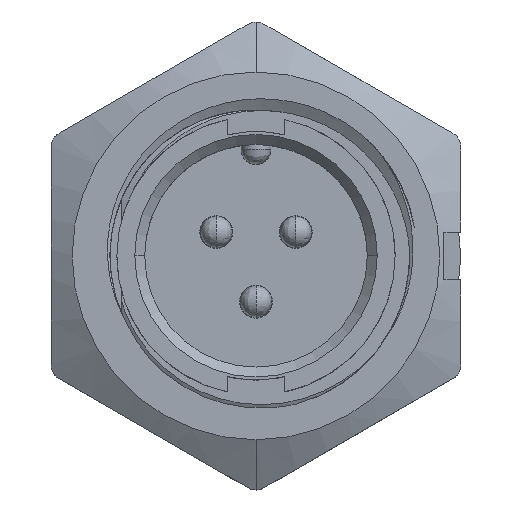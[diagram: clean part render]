
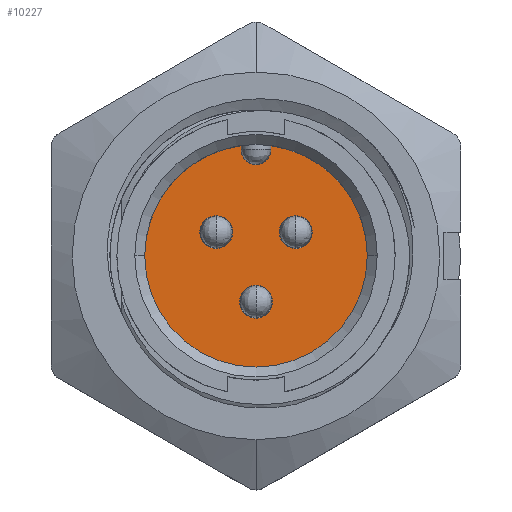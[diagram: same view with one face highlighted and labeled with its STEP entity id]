
A CAD part, top view. The second image highlights one B-rep face of the part: STEP entity #10227.
In plain terms, the highlighted planar face has unit normal (0, 0, 1).
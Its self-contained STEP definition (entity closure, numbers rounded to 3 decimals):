
#45 = EDGE_CURVE ( 'NONE', #7618, #11398, #1922, .T. ) ;
#425 = DIRECTION ( 'NONE',  ( 1., 0., 0. ) ) ;
#497 = VERTEX_POINT ( 'NONE', #12002 ) ;
#503 = VERTEX_POINT ( 'NONE', #8878 ) ;
#745 = EDGE_CURVE ( 'NONE', #2710, #9390, #5792, .T. ) ;
#752 = DIRECTION ( 'NONE',  ( 0., 0., -1. ) ) ;
#1122 = CARTESIAN_POINT ( 'NONE',  ( 0., -2.3, -9. ) ) ;
#1265 = CIRCLE ( 'NONE', #8840, 0.825 ) ;
#1341 = ORIENTED_EDGE ( 'NONE', *, *, #7080, .T. ) ;
#1497 = DIRECTION ( 'NONE',  ( 0., 0., -1. ) ) ;
#1604 = CARTESIAN_POINT ( 'NONE',  ( 2., 1.2, -9. ) ) ;
#1673 = DIRECTION ( 'NONE',  ( 1., 0., 0. ) ) ;
#1766 = EDGE_CURVE ( 'NONE', #497, #8084, #6400, .T. ) ;
#1922 = CIRCLE ( 'NONE', #10385, 5.6 ) ;
#1949 = VERTEX_POINT ( 'NONE', #6234 ) ;
#2173 = AXIS2_PLACEMENT_3D ( 'NONE', #10786, #8751, #4396 ) ;
#2253 = DIRECTION ( 'NONE',  ( 0., 0., 1. ) ) ;
#2318 = VERTEX_POINT ( 'NONE', #12605 ) ;
#2710 = VERTEX_POINT ( 'NONE', #2914 ) ;
#2914 = CARTESIAN_POINT ( 'NONE',  ( -2.825, 1.2, -9. ) ) ;
#2997 = DIRECTION ( 'NONE',  ( 0., 0., -1. ) ) ;
#3121 = CIRCLE ( 'NONE', #4206, 0.825 ) ;
#3134 = ORIENTED_EDGE ( 'NONE', *, *, #8625, .T. ) ;
#3185 = AXIS2_PLACEMENT_3D ( 'NONE', #7033, #8755, #5949 ) ;
#3365 = CARTESIAN_POINT ( 'NONE',  ( -0.75, 5.55, -9. ) ) ;
#3378 = ORIENTED_EDGE ( 'NONE', *, *, #7876, .T. ) ;
#3405 = PLANE ( 'NONE',  #7640 ) ;
#3410 = CARTESIAN_POINT ( 'NONE',  ( 0., 0., -9. ) ) ;
#3456 = CARTESIAN_POINT ( 'NONE',  ( 0., 0., -9. ) ) ;
#3538 = VERTEX_POINT ( 'NONE', #9735 ) ;
#3573 = EDGE_LOOP ( 'NONE', ( #3378, #11323 ) ) ;
#3582 = CARTESIAN_POINT ( 'NONE',  ( -5.6, 0., -9. ) ) ;
#3652 = EDGE_CURVE ( 'NONE', #8084, #7618, #12319, .T. ) ;
#3731 = DIRECTION ( 'NONE',  ( 0., -1., 0. ) ) ;
#3942 = CARTESIAN_POINT ( 'NONE',  ( -0.75, -0.028, -9. ) ) ;
#4187 = AXIS2_PLACEMENT_3D ( 'NONE', #4754, #2997, #9037 ) ;
#4206 = AXIS2_PLACEMENT_3D ( 'NONE', #1122, #4344, #5303 ) ;
#4296 = DIRECTION ( 'NONE',  ( 1., 0., 0. ) ) ;
#4344 = DIRECTION ( 'NONE',  ( 0., 0., -1. ) ) ;
#4355 = CARTESIAN_POINT ( 'NONE',  ( 0., -0.028, -9. ) ) ;
#4396 = DIRECTION ( 'NONE',  ( 1., 0., 0. ) ) ;
#4436 = EDGE_LOOP ( 'NONE', ( #3134, #6437, #10501, #7745, #7703, #11906 ) ) ;
#4753 = CARTESIAN_POINT ( 'NONE',  ( 0.75, -0.028, -9. ) ) ;
#4754 = CARTESIAN_POINT ( 'NONE',  ( 2., 1.2, -9. ) ) ;
#4922 = CIRCLE ( 'NONE', #10781, 0.825 ) ;
#5254 = EDGE_LOOP ( 'NONE', ( #1341, #9441 ) ) ;
#5303 = DIRECTION ( 'NONE',  ( 1., 0., 0. ) ) ;
#5377 = FACE_BOUND ( 'NONE', #3573, .T. ) ;
#5442 = DIRECTION ( 'NONE',  ( 1., 0., 0. ) ) ;
#5455 = ORIENTED_EDGE ( 'NONE', *, *, #8094, .T. ) ;
#5513 = VECTOR ( 'NONE', #5988, 1000. ) ;
#5687 = DIRECTION ( 'NONE',  ( 1., 0., 0. ) ) ;
#5792 = CIRCLE ( 'NONE', #3185, 0.825 ) ;
#5895 = EDGE_CURVE ( 'NONE', #503, #7166, #3121, .T. ) ;
#5949 = DIRECTION ( 'NONE',  ( 1., 0., 0. ) ) ;
#5988 = DIRECTION ( 'NONE',  ( 0., 1., 0. ) ) ;
#6234 = CARTESIAN_POINT ( 'NONE',  ( 5.6, 0., -9. ) ) ;
#6400 = CIRCLE ( 'NONE', #9240, 0.75 ) ;
#6437 = ORIENTED_EDGE ( 'NONE', *, *, #1766, .T. ) ;
#6462 = FACE_BOUND ( 'NONE', #5254, .T. ) ;
#6538 = ORIENTED_EDGE ( 'NONE', *, *, #11119, .T. ) ;
#6562 = CIRCLE ( 'NONE', #4187, 0.825 ) ;
#6608 = CARTESIAN_POINT ( 'NONE',  ( 0.825, -2.3, -9. ) ) ;
#6751 = VERTEX_POINT ( 'NONE', #9248 ) ;
#7025 = AXIS2_PLACEMENT_3D ( 'NONE', #11188, #752, #12218 ) ;
#7033 = CARTESIAN_POINT ( 'NONE',  ( -2., 1.2, -9. ) ) ;
#7080 = EDGE_CURVE ( 'NONE', #7166, #503, #7458, .T. ) ;
#7166 = VERTEX_POINT ( 'NONE', #6608 ) ;
#7354 = FACE_BOUND ( 'NONE', #8849, .T. ) ;
#7458 = CIRCLE ( 'NONE', #7025, 0.825 ) ;
#7618 = VERTEX_POINT ( 'NONE', #3365 ) ;
#7640 = AXIS2_PLACEMENT_3D ( 'NONE', #4355, #12654, #4296 ) ;
#7703 = ORIENTED_EDGE ( 'NONE', *, *, #13357, .T. ) ;
#7745 = ORIENTED_EDGE ( 'NONE', *, *, #45, .T. ) ;
#7876 = EDGE_CURVE ( 'NONE', #9390, #2710, #4922, .T. ) ;
#8008 = CIRCLE ( 'NONE', #2173, 5.6 ) ;
#8084 = VERTEX_POINT ( 'NONE', #8923 ) ;
#8094 = EDGE_CURVE ( 'NONE', #3538, #2318, #1265, .T. ) ;
#8113 = DIRECTION ( 'NONE',  ( 0., 0., -1. ) ) ;
#8152 = LINE ( 'NONE', #4753, #10365 ) ;
#8181 = DIRECTION ( 'NONE',  ( 1., 0., 0. ) ) ;
#8625 = EDGE_CURVE ( 'NONE', #6751, #497, #8152, .T. ) ;
#8751 = DIRECTION ( 'NONE',  ( 0., 0., 1. ) ) ;
#8755 = DIRECTION ( 'NONE',  ( 0., 0., -1. ) ) ;
#8840 = AXIS2_PLACEMENT_3D ( 'NONE', #1604, #9813, #1673 ) ;
#8849 = EDGE_LOOP ( 'NONE', ( #5455, #6538 ) ) ;
#8878 = CARTESIAN_POINT ( 'NONE',  ( -0.825, -2.3, -9. ) ) ;
#8923 = CARTESIAN_POINT ( 'NONE',  ( -0.75, 5.35, -9. ) ) ;
#9037 = DIRECTION ( 'NONE',  ( 1., 0., 0. ) ) ;
#9240 = AXIS2_PLACEMENT_3D ( 'NONE', #11412, #1497, #5687 ) ;
#9248 = CARTESIAN_POINT ( 'NONE',  ( 0.75, 5.55, -9. ) ) ;
#9254 = CARTESIAN_POINT ( 'NONE',  ( -1.175, 1.2, -9. ) ) ;
#9337 = CIRCLE ( 'NONE', #12677, 5.6 ) ;
#9390 = VERTEX_POINT ( 'NONE', #9254 ) ;
#9441 = ORIENTED_EDGE ( 'NONE', *, *, #5895, .T. ) ;
#9663 = FACE_OUTER_BOUND ( 'NONE', #4436, .T. ) ;
#9735 = CARTESIAN_POINT ( 'NONE',  ( 2.825, 1.2, -9. ) ) ;
#9813 = DIRECTION ( 'NONE',  ( 0., 0., -1. ) ) ;
#10162 = CARTESIAN_POINT ( 'NONE',  ( -2., 1.2, -9. ) ) ;
#10227 = ADVANCED_FACE ( 'NONE', ( #6462, #7354, #5377, #9663 ), #3405, .T. ) ;
#10365 = VECTOR ( 'NONE', #3731, 1000. ) ;
#10385 = AXIS2_PLACEMENT_3D ( 'NONE', #3456, #2253, #425 ) ;
#10501 = ORIENTED_EDGE ( 'NONE', *, *, #3652, .T. ) ;
#10614 = DIRECTION ( 'NONE',  ( 0., 0., 1. ) ) ;
#10781 = AXIS2_PLACEMENT_3D ( 'NONE', #10162, #8113, #8181 ) ;
#10786 = CARTESIAN_POINT ( 'NONE',  ( 0., 0., -9. ) ) ;
#11119 = EDGE_CURVE ( 'NONE', #2318, #3538, #6562, .T. ) ;
#11188 = CARTESIAN_POINT ( 'NONE',  ( 0., -2.3, -9. ) ) ;
#11323 = ORIENTED_EDGE ( 'NONE', *, *, #745, .T. ) ;
#11398 = VERTEX_POINT ( 'NONE', #3582 ) ;
#11412 = CARTESIAN_POINT ( 'NONE',  ( 0., 5.35, -9. ) ) ;
#11445 = EDGE_CURVE ( 'NONE', #1949, #6751, #8008, .T. ) ;
#11906 = ORIENTED_EDGE ( 'NONE', *, *, #11445, .T. ) ;
#12002 = CARTESIAN_POINT ( 'NONE',  ( 0.75, 5.35, -9. ) ) ;
#12218 = DIRECTION ( 'NONE',  ( 1., 0., 0. ) ) ;
#12319 = LINE ( 'NONE', #3942, #5513 ) ;
#12605 = CARTESIAN_POINT ( 'NONE',  ( 1.175, 1.2, -9. ) ) ;
#12654 = DIRECTION ( 'NONE',  ( 0., 0., 1. ) ) ;
#12677 = AXIS2_PLACEMENT_3D ( 'NONE', #3410, #10614, #5442 ) ;
#13357 = EDGE_CURVE ( 'NONE', #11398, #1949, #9337, .T. ) ;
